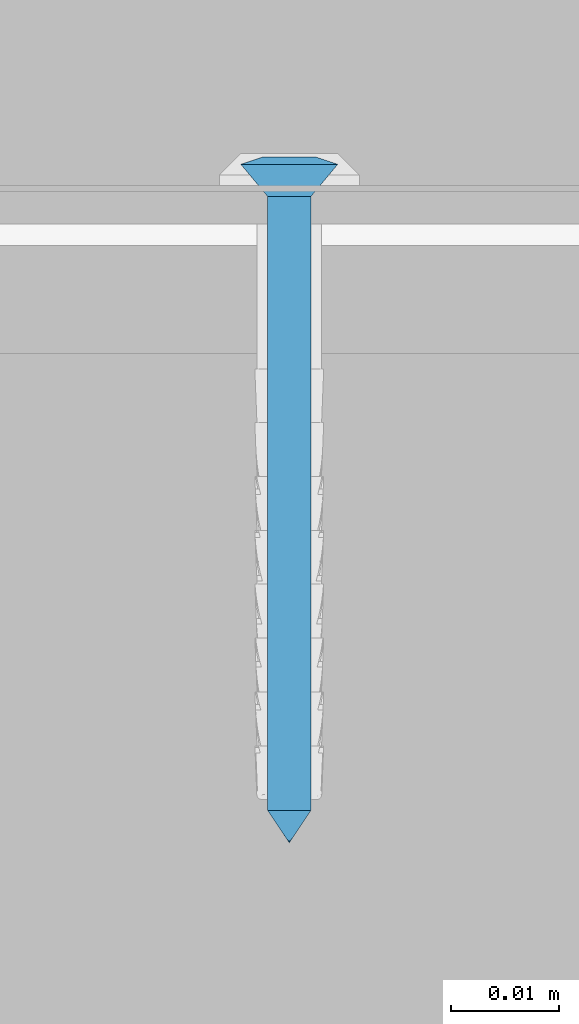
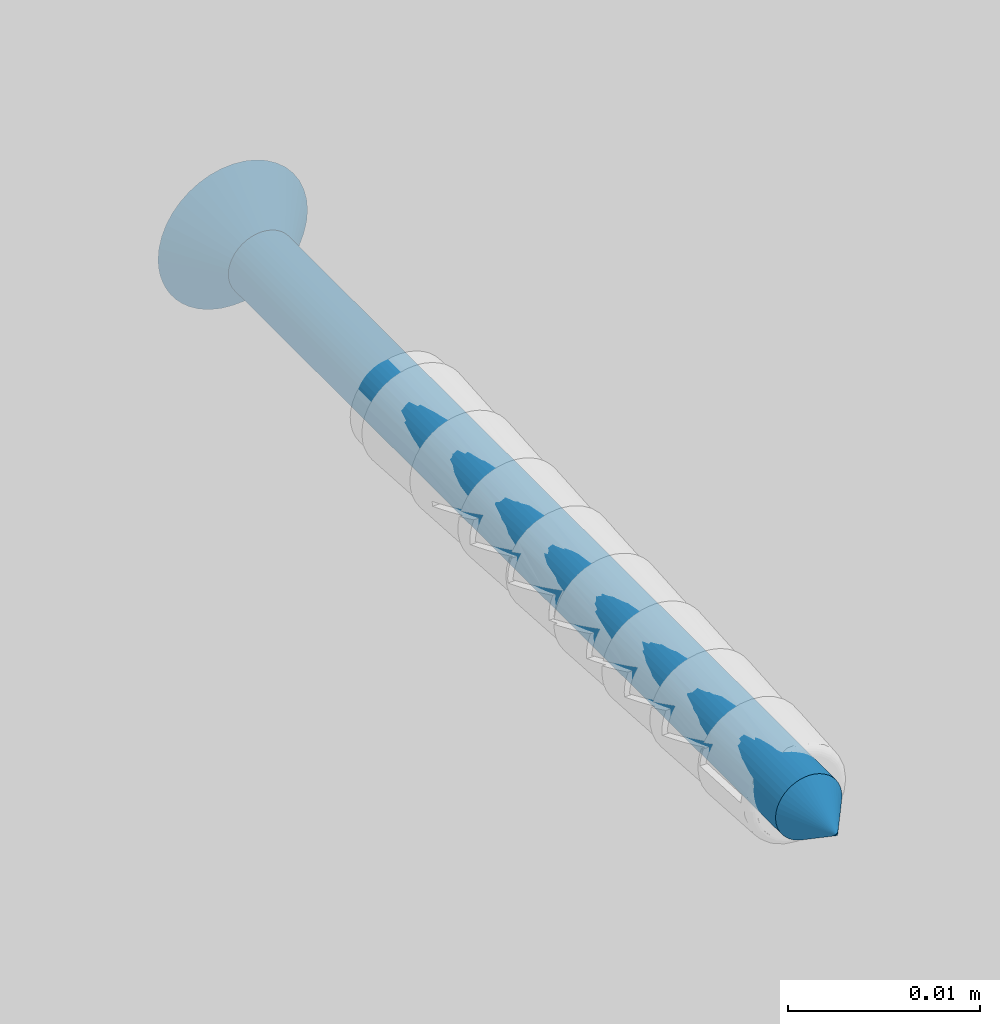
# One storey, part 18 of 92: 1 wall.
"""IFC2X3 building model written with IfcOpenShell, lengths in millimetres."""

import ifcopenshell
import ifcopenshell.guid

model = None  # the IFC model being written
_history = None  # IfcOwnerHistory: only IFC2X3 demands one
_inside = {}  # id of a spatial element -> (the spatial element, [elements in it])
_under = {}  # id of a project, library or spatial element -> (it, [spatial elements below it])
_declared = {}  # id of a project -> (the project, [libraries it declares])
_typed = {}  # id of a type object -> (the type object, [elements of that type])
_made_of = {}  # id of a material, layer set ... -> (it, [elements and type objects made of it])


def new_model(schema):
    """Start an empty IFC model of exactly this schema.

    Asked for "IFC4X3", IfcOpenShell would pick the latest addendum, in which some entities
    have other attributes; the version numbers below select the first issue.
    IFC2X3 requires an IfcOwnerHistory on every rooted entity: one is made here for all.
    """
    global model, _history
    if schema == "IFC4X3":
        model = ifcopenshell.file(schema_version=(4, 3, 0, 0))
    else:
        model = ifcopenshell.file(schema=schema)
    _inside.clear()
    _under.clear()
    _declared.clear()
    _typed.clear()
    _made_of.clear()
    _history = None
    if model.schema == "IFC2X3":
        org = make("IfcOrganization", Name="unknown")
        user = make(
            "IfcPersonAndOrganization",
            ThePerson=make("IfcPerson", FamilyName="unknown"),
            TheOrganization=org,
        )
        app = make(
            "IfcApplication",
            ApplicationDeveloper=org,
            Version="unknown",
            ApplicationFullName="unknown",
            ApplicationIdentifier="unknown",
        )
        _history = make(
            "IfcOwnerHistory",
            OwningUser=user,
            OwningApplication=app,
            ChangeAction="ADDED",
            CreationDate=0,
        )
    return model


def make(cls, **values):
    """One entity of the class cls with the attributes given. An attribute that is None is left unset."""
    return model.create_entity(
        cls, **{name: value for name, value in values.items() if value is not None}
    )


def rooted(cls, **values):
    """An entity with a GlobalId (a new one), such as an element, a storey or a relation."""
    return make(cls, GlobalId=ifcopenshell.guid.new(), OwnerHistory=_history, **values)


def si_unit(unit_type, name, prefix=None):
    """IfcSIUnit, for example si_unit("LENGTHUNIT", "METRE", prefix="MILLI")."""
    return make("IfcSIUnit", UnitType=unit_type, Prefix=prefix, Name=name)


def assignment(units):
    """IfcUnitAssignment: the units of a project."""
    return None if units is None else make("IfcUnitAssignment", Units=units)


def point(xyz):
    """IfcCartesianPoint."""
    return None if xyz is None else make("IfcCartesianPoint", Coordinates=xyz)


def direction(xyz):
    """IfcDirection."""
    return None if xyz is None else make("IfcDirection", DirectionRatios=xyz)


def frame(location, z_axis=None, x_axis=None):
    """IfcAxis2Placement3D, a coordinate frame: its origin and axes. An axis left out is left unset."""
    return make(
        "IfcAxis2Placement3D",
        Location=point(location),
        Axis=direction(z_axis),
        RefDirection=direction(x_axis),
    )


def origin_with_axes():
    """The frame at (0, 0, 0) with the z axis (0, 0, 1) and the x axis (1, 0, 0) written out."""
    return frame((0.0, 0.0, 0.0), z_axis=(0.0, 0.0, 1.0), x_axis=(1.0, 0.0, 0.0))


def place(relative_to, where):
    """IfcLocalPlacement: puts the frame where relative to a parent placement (None: the world)."""
    return make(
        "IfcLocalPlacement", PlacementRelTo=relative_to, RelativePlacement=where
    )


def context(
    kind, dimensions, precision=None, world=None, true_north=None, identifier=None
):
    """IfcGeometricRepresentationContext, for example the 3D "Model" context."""
    return make(
        "IfcGeometricRepresentationContext",
        ContextIdentifier=identifier,
        ContextType=kind,
        CoordinateSpaceDimension=dimensions,
        Precision=precision,
        WorldCoordinateSystem=world,
        TrueNorth=true_north,
    )


def subcontext(parent, identifier, kind, view, scale=None):
    """IfcGeometricRepresentationSubContext, for example "Body" below "Model"."""
    return make(
        "IfcGeometricRepresentationSubContext",
        ContextIdentifier=identifier,
        ContextType=kind,
        ParentContext=parent,
        TargetScale=scale,
        TargetView=view,
    )


def project(units=None, contexts=None):
    """IfcProject with its units and contexts."""
    return rooted(
        "IfcProject",
        Name="project",
        RepresentationContexts=contexts,
        UnitsInContext=assignment(units),
    )


def spatial(cls, under=None, at=None, **own):
    """A site, building, storey or space (cls), placed at a placement, below another one or the project."""
    s = rooted(cls, ObjectPlacement=at, **own)
    if under is not None:
        _under.setdefault(under.id(), (under, []))[1].append(s)
    return s


def faces_of(points, faces, orient=None, outer=None):
    """IfcFace entities. A face is a list of loops; a loop is a list of indices into points, from 0.

    orient and outer hold one flag for each loop. By default every Orientation is true, the
    first loop of a face is its IfcFaceOuterBound and the others are IfcFaceBound.
    """
    made = []
    for i, loops in enumerate(faces):
        bounds = []
        for j, loop in enumerate(loops):
            is_outer = j == 0 if outer is None else outer[i][j]
            bounds.append(
                make(
                    "IfcFaceOuterBound" if is_outer else "IfcFaceBound",
                    Bound=make("IfcPolyLoop", Polygon=[points[k] for k in loop]),
                    Orientation=True if orient is None else orient[i][j],
                )
            )
        made.append(make("IfcFace", Bounds=bounds))
    return made


def faceted_brep(points, faces, orient=None, outer=None, voids=None):
    """IfcFacetedBrep: a solid bounded by flat faces; with voids (closed shells), ...WithVoids."""
    shared = [point(p) for p in points]
    hull = make("IfcClosedShell", CfsFaces=faces_of(shared, faces, orient, outer))
    if voids is None:
        return make("IfcFacetedBrep", Outer=hull)
    return make(
        "IfcFacetedBrepWithVoids",
        Outer=hull,
        Voids=[
            make(cls, CfsFaces=faces_of(shared, fs, o, b)) for cls, fs, o, b in voids
        ],
    )


def shape(context_of_items, identifier, shape_type, items):
    """IfcShapeRepresentation: the items that make up one representation, for example the "Body"."""
    return make(
        "IfcShapeRepresentation",
        ContextOfItems=context_of_items,
        RepresentationIdentifier=identifier,
        RepresentationType=shape_type,
        Items=items,
    )


def material(Name=None, Category=None):
    """IfcMaterial."""
    return make("IfcMaterial", Name=Name, Category=Category)


def made_of(thing, what):
    """Note that an element or type object is made of a material, layer set ...; save() writes the relation."""
    if what is not None:
        _made_of.setdefault(what.id(), (what, []))[1].append(thing)
    return thing


def type_object(cls, material=None, **own):
    """A type object (cls), such as IfcWallType, which elements share."""
    return made_of(rooted(cls, **own), material)


def element(
    cls,
    number,
    at=None,
    inside=None,
    cuts=None,
    type_object=None,
    material=None,
    context=None,
    identifier="Body",
    shape_type=None,
    held_by="IfcProductDefinitionShape",
    body=None,
    shapes=None,
    **own,
):
    """One element of the class cls, such as IfcWall. Its Tag is "e" and its number.

    at: its placement. inside: the storey or other place that contains it. cuts: it is an
    opening in that element (IfcRelVoidsElement). A single representation is given by context,
    identifier, shape_type and body (its items); several are given by shapes. held_by: the class
    of the entity that holds the representations. save() writes the other relations.
    """
    e = rooted(cls, Tag="e%d" % number, ObjectPlacement=at, **own)
    if body is not None:
        shapes = [shape(context, identifier, shape_type, body)]
    if shapes is not None:
        e.Representation = make(held_by, Representations=shapes)
    if inside is not None:
        _inside.setdefault(inside.id(), (inside, []))[1].append(e)
    if cuts is not None:
        rooted(
            "IfcRelVoidsElement", RelatingBuildingElement=cuts, RelatedOpeningElement=e
        )
    if type_object is not None:
        _typed.setdefault(type_object.id(), (type_object, []))[1].append(e)
    return made_of(e, material)


def aggregate(whole, parts):
    """IfcRelAggregates: a whole, such as a stair, and the parts it consists of."""
    return rooted("IfcRelAggregates", RelatingObject=whole, RelatedObjects=parts)


def save(model, path):
    """Write the relations noted so far, then the file.

    IfcRelAggregates (storeys below a building ...), IfcRelContainedInSpatialStructure (elements
    in a storey), IfcRelDefinesByType, IfcRelAssociatesMaterial and IfcRelDeclares: one each for
    every whole, place, type object, material and project.
    """
    for whole, parts in _under.values():
        aggregate(whole, parts)
    for where, things in _inside.values():
        rooted(
            "IfcRelContainedInSpatialStructure",
            RelatedElements=things,
            RelatingStructure=where,
        )
    for kind, things in _typed.values():
        rooted("IfcRelDefinesByType", RelatedObjects=things, RelatingType=kind)
    for what, things in _made_of.values():
        rooted("IfcRelAssociatesMaterial", RelatedObjects=things, RelatingMaterial=what)
    for by, libraries in _declared.values():
        rooted("IfcRelDeclares", RelatingContext=by, RelatedDefinitions=libraries)
    model.write(path)


model = new_model("IFC2X3")

# Units and contexts
model_context = context("Model", 3, world=origin_with_axes())
body_context = subcontext(model_context, "Body", "Model", "MODEL_VIEW")
ifc_project = project(units=[si_unit("LENGTHUNIT", "METRE", prefix="MILLI"), si_unit("AREAUNIT", "SQUARE_METRE"), si_unit("VOLUMEUNIT", "CUBIC_METRE")], contexts=[model_context])

# Site, building, storey
site_placement = place(None, origin_with_axes())
site = spatial("IfcSite", under=ifc_project, at=site_placement, Name="Default Site", CompositionType="ELEMENT")
building_placement = place(site_placement, origin_with_axes())
building = spatial("IfcBuilding", under=site, at=building_placement, Name="Default Building", CompositionType="ELEMENT")
storey_placement = place(building_placement, origin_with_axes())
storey = spatial("IfcBuildingStorey", under=building, at=storey_placement, Name="Default Building Storey", CompositionType="ELEMENT", Elevation=0.0)

# Wall
ifc_material = material(Name="Default")
wall_type = type_object("IfcWallType", Name="Kołek rozporowy min. fi 6", PredefinedType="NOTDEFINED")
wall_placement = place(storey_placement, frame((3527.8498144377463, 118.01549176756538, 2996.231090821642), z_axis=(-1.89380159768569e-13, 1.0, 3.3306690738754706e-16), x_axis=(1.9030997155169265e-13, -3.3306690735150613e-16, 1.0)))
element("IfcWall", 1, at=wall_placement, inside=storey, type_object=wall_type, material=ifc_material, Name="Kołek rozporowy min. fi 6", context=body_context, shape_type="Brep", body=[
    faceted_brep([(-1438.2587671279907, -3452.579259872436, -0.46425670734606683), (-1435.7895851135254, -3452.970266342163, -3.464256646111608), (-1435.8141422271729, -3453.2833099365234, -3.464256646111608), (-1438.3141994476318, -3453.2833099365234, -0.46425670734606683), (-1438.093900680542, -3451.892614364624, -0.46425670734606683), (-1435.7162714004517, -3452.6650905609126, -3.464256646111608), (-1437.8236532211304, -3451.240301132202, -0.46425670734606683), (-1435.5961084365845, -3452.3751735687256, -3.464256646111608), (-1437.4547004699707, -3450.6382942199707, -0.46425670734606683), (-1435.4321956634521, -3452.107667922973, -3.464256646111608), (-1436.9961023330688, -3450.101137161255, -0.46425670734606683), (-1435.22834777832, -3451.8690109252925, -3.464256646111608), (-1436.4591836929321, -3449.642658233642, -0.46425670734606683), (-1434.9896907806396, -3451.665163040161, -3.464256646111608), (-1435.8570575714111, -3449.2735862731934, -0.46425670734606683), (-1434.7221851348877, -3451.501131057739, -3.464256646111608), (-1435.2047443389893, -3449.0034580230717, -0.46425670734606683), (-1434.4321489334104, -3451.381206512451, -3.464256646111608), (-1434.5180988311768, -3448.838710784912, -0.46425670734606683), (-1434.1269731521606, -3451.307773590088, -3.464256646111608), (-1433.8141679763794, -3448.7831592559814, -0.46425670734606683), (-1433.8141679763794, -3451.28321647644, -3.464256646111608), (-1433.110237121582, -3448.838710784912, -0.46425670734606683), (-1433.5012435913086, -3451.307773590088, -3.464256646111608), (-1432.4235916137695, -3449.0034580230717, -0.46425670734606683), (-1433.1960678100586, -3451.381206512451, -3.464256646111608), (-1431.771159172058, -3449.2735862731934, -0.46425670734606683), (-1432.9061508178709, -3451.501131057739, -3.464256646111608), (-1431.1691522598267, -3449.642658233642, -0.46425670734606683), (-1432.6385259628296, -3451.665163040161, -3.464256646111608), (-1430.6321144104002, -3450.101137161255, -0.46425670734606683), (-1432.3999881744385, -3451.8690109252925, -3.464256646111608), (-1430.1735162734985, -3450.6382942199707, -0.46425670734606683), (-1432.1961402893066, -3452.107667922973, -3.464256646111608), (-1429.8045635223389, -3451.240301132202, -0.46425670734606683), (-1432.0321083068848, -3452.3751735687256, -3.464256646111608), (-1429.5344352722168, -3451.892614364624, -0.46425670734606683), (-1431.9120645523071, -3452.6650905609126, -3.464256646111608), (-1431.814193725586, -3453.2833099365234, -3.464256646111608), (-1429.314136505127, -3453.2833099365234, -0.46425670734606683), (-1429.369568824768, -3453.9871215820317, -0.46425670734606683), (-1431.8387508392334, -3453.5961151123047, -3.464256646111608), (-1431.8387508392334, -3452.970266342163, -3.464256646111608), (-1429.369568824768, -3452.579259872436, -0.46425670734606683), (-1429.5344352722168, -3454.6737670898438, -0.46425670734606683), (-1431.9120645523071, -3453.9012908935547, -3.464256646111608), (-1429.8045635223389, -3455.3260803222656, -0.46425670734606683), (-1432.0321083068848, -3454.191207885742, -3.464256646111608), (-1430.1735162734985, -3455.9283256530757, -0.46425670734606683), (-1432.1961402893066, -3454.458713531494, -3.464256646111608), (-1430.6321144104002, -3456.465244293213, -0.46425670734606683), (-1432.3999881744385, -3454.6973705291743, -3.464256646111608), (-1431.1691522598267, -3456.923723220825, -0.46425670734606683), (-1432.6385259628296, -3454.9012184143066, -3.464256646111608), (-1431.771159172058, -3457.2927951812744, -0.46425670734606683), (-1432.9061508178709, -3455.065250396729, -3.464256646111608), (-1432.4235916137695, -3457.562923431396, -0.46425670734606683), (-1433.1960678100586, -3455.1854133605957, -3.464256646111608), (-1433.110237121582, -3457.7279090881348, -0.46425670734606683), (-1433.5012435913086, -3455.25860786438, -3.464256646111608), (-1433.8141679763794, -3457.7832221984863, -0.46425670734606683), (-1433.8141679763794, -3455.283164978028, -3.464256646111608), (-1434.1269731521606, -3455.25860786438, -3.464256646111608), (-1434.3430995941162, -3457.7519893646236, -0.46425670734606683), (-1434.4321489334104, -3455.1854133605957, -3.464256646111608), (-1434.8646402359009, -3457.6590061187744, -0.46425670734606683), (-1435.3716373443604, -3457.504987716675, -0.46425670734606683), (-1434.7221851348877, -3455.065250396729, -3.464256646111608), (-1435.8570575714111, -3457.2927951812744, -0.46425670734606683), (-1436.3142251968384, -3457.024812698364, -0.46425670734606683), (-1435.22834777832, -3454.6973705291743, -3.464256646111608), (-1434.9896907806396, -3454.9012184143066, -3.464256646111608), (-1436.7367029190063, -3456.705093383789, -0.46425670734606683), (-1437.118649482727, -3456.337928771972, -0.46425670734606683), (-1435.4321956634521, -3454.458713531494, -3.464256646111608), (-1437.4547004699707, -3455.9283256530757, -0.46425670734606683), (-1437.8236532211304, -3455.3260803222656, -0.46425670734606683), (-1435.5961084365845, -3454.191207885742, -3.464256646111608), (-1438.093900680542, -3454.6737670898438, -0.46425670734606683), (-1435.7162714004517, -3453.9012908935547, -3.464256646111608), (-1438.2587671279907, -3453.9871215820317, -0.46425670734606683), (-1435.7895851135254, -3453.5961151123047, -3.464256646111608), (-1433.8141679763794, -3455.7831287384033, 0.20073754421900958), (-1434.2052936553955, -3455.752372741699, 0.20073754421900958), (-1434.5866441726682, -3455.6608200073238, 0.20073754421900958), (-1434.9491596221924, -3455.510854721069, 0.20073754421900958), (-1435.2836608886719, -3455.305814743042, 0.20073754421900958), (-1435.581922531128, -3455.0509452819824, 0.20073754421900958), (-1435.836672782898, -3454.7526836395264, 0.20073754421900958), (-1436.0417127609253, -3454.418182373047, 0.20073754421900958), (-1436.1917972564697, -3454.0557861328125, 0.20073754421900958), (-1436.2833499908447, -3453.6743164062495, 0.20073754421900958), (-1436.3141059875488, -3453.2833099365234, 0.20073754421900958), (-1436.2833499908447, -3452.8920650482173, 0.20073754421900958), (-1436.1917972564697, -3452.5105953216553, 0.20073754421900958), (-1436.0417127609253, -3452.148199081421, 0.20073754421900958), (-1435.836672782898, -3451.8136978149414, 0.20073754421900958), (-1435.581922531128, -3451.5154361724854, 0.20073754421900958), (-1435.2836608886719, -3451.260566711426, 0.20073754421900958), (-1434.9491596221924, -3451.0557651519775, 0.20073754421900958), (-1434.5866441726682, -3450.905561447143, 0.20073754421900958), (-1433.8141679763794, -3450.7832527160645, 0.20073754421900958), (-1433.4230422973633, -3450.8140087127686, 0.20073754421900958), (-1434.2052936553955, -3450.8140087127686, 0.20073754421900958), (-1433.0415725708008, -3450.905561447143, 0.20073754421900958), (-1432.6791763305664, -3451.0557651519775, 0.20073754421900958), (-1432.344675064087, -3451.260566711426, 0.20073754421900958), (-1432.0464134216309, -3451.5154361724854, 0.20073754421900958), (-1431.7916631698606, -3451.8136978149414, 0.20073754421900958), (-1431.5866231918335, -3452.148199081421, 0.20073754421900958), (-1431.436538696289, -3452.5105953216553, 0.20073754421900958), (-1431.344985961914, -3452.8920650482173, 0.20073754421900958), (-1431.3141107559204, -3453.2833099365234, 0.20073754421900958), (-1431.344985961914, -3453.6743164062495, 0.20073754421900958), (-1431.436538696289, -3454.0557861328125, 0.20073754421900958), (-1431.5866231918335, -3454.418182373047, 0.20073754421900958), (-1431.7916631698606, -3454.7526836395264, 0.20073754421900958), (-1432.0464134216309, -3455.0509452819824, 0.20073754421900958), (-1432.344675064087, -3455.305814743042, 0.20073754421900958), (-1432.6791763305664, -3455.510854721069, 0.20073754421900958), (-1433.0415725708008, -3455.6608200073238, 0.20073754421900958), (-1433.4230422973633, -3455.752372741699, 0.20073754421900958), (-1435.8141422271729, -3453.2833099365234, -60.464255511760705), (-1435.7895851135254, -3452.970266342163, -60.464255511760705), (-1433.8141679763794, -3453.2833099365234, -63.46425414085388), (-1435.7162714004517, -3452.6650905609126, -60.464255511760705), (-1435.5961084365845, -3452.3751735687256, -60.464255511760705), (-1435.4321956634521, -3452.107667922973, -60.464255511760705), (-1435.22834777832, -3451.8690109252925, -60.464255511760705), (-1434.9896907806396, -3451.665163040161, -60.464255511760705), (-1434.7221851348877, -3451.501131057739, -60.464255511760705), (-1434.4321489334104, -3451.381206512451, -60.464255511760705), (-1434.1269731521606, -3451.307773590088, -60.464255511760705), (-1433.8141679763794, -3451.28321647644, -60.464255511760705), (-1433.5012435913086, -3451.307773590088, -60.464255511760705), (-1433.1960678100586, -3451.381206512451, -60.464255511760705), (-1432.9061508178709, -3451.501131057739, -60.464255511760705), (-1432.6385259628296, -3451.665163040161, -60.464255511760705), (-1432.3999881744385, -3451.8690109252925, -60.464255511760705), (-1432.1961402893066, -3452.107667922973, -60.464255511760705), (-1432.0321083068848, -3452.3751735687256, -60.464255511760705), (-1431.9120645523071, -3452.6650905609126, -60.464255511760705), (-1431.8387508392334, -3452.970266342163, -60.464255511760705), (-1431.814193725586, -3453.2833099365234, -60.464255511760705), (-1431.8387508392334, -3453.5961151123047, -60.464255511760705), (-1431.9120645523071, -3453.9012908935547, -60.464255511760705), (-1432.0321083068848, -3454.191207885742, -60.464255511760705), (-1432.1961402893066, -3454.458713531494, -60.464255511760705), (-1432.3999881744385, -3454.6973705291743, -60.464255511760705), (-1432.6385259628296, -3454.9012184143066, -60.464255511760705), (-1432.9061508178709, -3455.065250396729, -60.464255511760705), (-1433.1960678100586, -3455.1854133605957, -60.464255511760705), (-1433.5012435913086, -3455.25860786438, -60.464255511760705), (-1433.8141679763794, -3455.283164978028, -60.464255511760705), (-1434.1269731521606, -3455.25860786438, -60.464255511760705), (-1434.4321489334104, -3455.1854133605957, -60.464255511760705), (-1434.7221851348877, -3455.065250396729, -60.464255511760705), (-1434.9896907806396, -3454.9012184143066, -60.464255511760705), (-1435.22834777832, -3454.6973705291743, -60.464255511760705), (-1435.4321956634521, -3454.458713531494, -60.464255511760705), (-1435.5961084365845, -3454.191207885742, -60.464255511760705), (-1435.7162714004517, -3453.9012908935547, -60.464255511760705), (-1435.7895851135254, -3453.5961151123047, -60.464255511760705), (-1436.1917972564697, -3454.0557861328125, 0.049999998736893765), (-1436.0417127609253, -3454.418182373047, 0.049999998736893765), (-1435.836672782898, -3454.7526836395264, 0.049999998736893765), (-1435.581922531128, -3455.0509452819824, 0.049999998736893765), (-1435.2836608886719, -3455.305814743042, 0.049999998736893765), (-1434.9491596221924, -3455.510854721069, 0.049999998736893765), (-1434.5866441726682, -3455.6608200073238, 0.049999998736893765), (-1434.2052936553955, -3455.752372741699, 0.049999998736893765), (-1433.8141679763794, -3455.7831287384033, 0.049999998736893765), (-1433.4230422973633, -3455.752372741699, 0.049999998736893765), (-1433.0415725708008, -3455.6608200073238, 0.049999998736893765), (-1432.6791763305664, -3455.510854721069, 0.049999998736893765), (-1432.344675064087, -3455.305814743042, 0.049999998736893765), (-1432.0464134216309, -3455.0509452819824, 0.049999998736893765), (-1431.7916631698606, -3454.7526836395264, 0.049999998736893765), (-1431.5866231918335, -3454.418182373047, 0.049999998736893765), (-1431.436538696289, -3454.0557861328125, 0.049999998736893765), (-1431.344985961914, -3453.6743164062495, 0.049999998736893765), (-1431.3141107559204, -3453.2833099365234, 0.049999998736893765), (-1431.344985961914, -3452.8920650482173, 0.049999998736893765), (-1431.436538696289, -3452.5105953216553, 0.049999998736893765), (-1431.5866231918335, -3452.148199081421, 0.049999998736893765), (-1431.7916631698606, -3451.8136978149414, 0.049999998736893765), (-1432.0464134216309, -3451.5154361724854, 0.049999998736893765), (-1432.344675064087, -3451.260566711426, 0.049999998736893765), (-1432.6791763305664, -3451.0557651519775, 0.049999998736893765), (-1433.0415725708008, -3450.905561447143, 0.049999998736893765), (-1433.4230422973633, -3450.8140087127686, 0.049999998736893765), (-1433.8141679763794, -3450.7832527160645, 0.049999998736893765), (-1434.2052936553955, -3450.8140087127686, 0.049999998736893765), (-1434.5866441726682, -3450.905561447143, 0.049999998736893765), (-1434.9491596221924, -3451.0557651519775, 0.049999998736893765), (-1435.2836608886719, -3451.260566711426, 0.049999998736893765), (-1435.581922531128, -3451.5154361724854, 0.049999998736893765), (-1435.836672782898, -3451.8136978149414, 0.049999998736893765), (-1436.0417127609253, -3452.148199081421, 0.049999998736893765), (-1436.1917972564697, -3452.5105953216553, 0.049999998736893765), (-1436.2833499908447, -3452.8920650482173, 0.049999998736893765), (-1436.3141059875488, -3453.2833099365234, 0.049999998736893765), (-1436.2833499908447, -3453.6743164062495, 0.049999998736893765), (-1434.3141317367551, -3453.7832736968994, 0.049999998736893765), (-1435.8141422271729, -3453.7832736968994, 0.049999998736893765), (-1435.8141422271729, -3452.7831077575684, 0.049999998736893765), (-1434.3141317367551, -3452.7831077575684, 0.049999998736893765), (-1434.3141317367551, -3451.28321647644, 0.049999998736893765), (-1433.3142042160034, -3451.28321647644, 0.049999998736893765), (-1433.3142042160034, -3452.7831077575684, 0.049999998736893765), (-1431.814193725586, -3452.7831077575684, 0.049999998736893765), (-1431.814193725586, -3453.7832736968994, 0.049999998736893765), (-1433.3142042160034, -3453.7832736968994, 0.049999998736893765), (-1433.3142042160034, -3455.283164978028, 0.049999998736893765), (-1434.3141317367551, -3455.283164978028, 0.049999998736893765), (-1435.8141422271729, -3452.7831077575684, -1.799262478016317), (-1435.8141422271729, -3453.7832736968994, -1.799262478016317), (-1434.3141317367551, -3453.7832736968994, -1.799262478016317), (-1434.3141317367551, -3455.283164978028, -1.799262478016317), (-1433.3142042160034, -3455.283164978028, -1.799262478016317), (-1433.3142042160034, -3453.7832736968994, -1.799262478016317), (-1431.814193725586, -3453.7832736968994, -1.799262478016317), (-1431.814193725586, -3452.7831077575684, -1.799262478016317), (-1433.3142042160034, -3452.7831077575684, -1.799262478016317), (-1433.3142042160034, -3451.28321647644, -1.799262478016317), (-1434.3141317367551, -3451.28321647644, -1.799262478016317), (-1434.3141317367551, -3452.7831077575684, -1.799262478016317)], [[[0, 1, 2, 3]], [[1, 0, 4, 5]], [[5, 4, 6, 7]], [[8, 9, 7, 6]], [[9, 8, 10, 11]], [[12, 13, 11, 10]], [[13, 12, 14, 15]], [[15, 14, 16, 17]], [[18, 19, 17, 16]], [[19, 18, 20, 21]], [[22, 23, 21, 20]], [[23, 22, 24, 25]], [[25, 24, 26, 27]], [[28, 29, 27, 26]], [[29, 28, 30, 31]], [[32, 33, 31, 30]], [[33, 32, 34, 35]], [[35, 34, 36, 37]], [[38, 39, 40, 41]], [[42, 43, 39, 38]], [[43, 42, 37, 36]], [[41, 40, 44, 45]], [[45, 44, 46, 47]], [[48, 49, 47, 46]], [[49, 48, 50, 51]], [[52, 53, 51, 50]], [[53, 52, 54, 55]], [[55, 54, 56, 57]], [[58, 59, 57, 56]], [[59, 58, 60, 61]], [[62, 60, 63]], [[62, 61, 60]], [[63, 64, 62]], [[63, 65, 64]], [[64, 65, 66]], [[66, 67, 64]], [[66, 68, 67]], [[69, 70, 71]], [[69, 72, 70]], [[71, 68, 69]], [[71, 67, 68]], [[72, 73, 70]], [[74, 73, 75]], [[74, 70, 73]], [[74, 75, 76, 77]], [[77, 76, 78, 79]], [[80, 81, 79, 78]], [[81, 80, 3, 2]], [[63, 82, 83]], [[63, 60, 82]], [[83, 65, 63]], [[83, 84, 65]], [[84, 68, 66]], [[84, 85, 68]], [[66, 65, 84]], [[69, 85, 86]], [[69, 68, 85]], [[87, 73, 72]], [[72, 86, 87]], [[72, 69, 86]], [[75, 87, 88]], [[75, 73, 87]], [[75, 88, 89, 76]], [[76, 89, 90, 78]], [[91, 80, 78, 90]], [[80, 91, 92, 3]], [[93, 0, 3, 92]], [[0, 93, 94, 4]], [[4, 94, 95, 6]], [[96, 8, 6, 95]], [[8, 96, 97, 10]], [[98, 12, 10, 97]], [[12, 98, 99, 14]], [[14, 99, 100, 16]], [[20, 101, 102, 22]], [[18, 103, 101, 20]], [[103, 18, 16, 100]], [[22, 102, 104, 24]], [[24, 104, 105, 26]], [[106, 28, 26, 105]], [[28, 106, 107, 30]], [[108, 32, 30, 107]], [[32, 108, 109, 34]], [[34, 109, 110, 36]], [[111, 43, 36, 110]], [[43, 111, 112, 39]], [[113, 40, 39, 112]], [[40, 113, 114, 44]], [[44, 114, 115, 46]], [[116, 48, 46, 115]], [[48, 116, 117, 50]], [[118, 52, 50, 117]], [[52, 118, 119, 54]], [[54, 119, 120, 56]], [[121, 58, 56, 120]], [[58, 121, 82, 60]], [[122, 123, 124]], [[123, 125, 124]], [[125, 126, 124]], [[124, 126, 127]], [[127, 128, 124]], [[124, 128, 129]], [[129, 130, 124]], [[130, 131, 124]], [[124, 131, 132]], [[132, 133, 124]], [[124, 133, 134]], [[134, 135, 124]], [[135, 136, 124]], [[124, 136, 137]], [[137, 138, 124]], [[124, 138, 139]], [[139, 140, 124]], [[140, 141, 124]], [[124, 141, 142]], [[142, 143, 124]], [[124, 143, 144]], [[144, 145, 124]], [[145, 146, 124]], [[124, 146, 147]], [[147, 148, 124]], [[124, 148, 149]], [[149, 150, 124]], [[150, 151, 124]], [[124, 151, 152]], [[152, 153, 124]], [[124, 153, 154]], [[154, 155, 124]], [[155, 156, 124]], [[124, 156, 157]], [[157, 158, 124]], [[124, 158, 159]], [[159, 160, 124]], [[160, 161, 124]], [[124, 161, 162]], [[124, 162, 122]], [[1, 123, 122, 2]], [[123, 1, 5, 125]], [[125, 5, 7, 126]], [[9, 127, 126, 7]], [[127, 9, 11, 128]], [[13, 129, 128, 11]], [[129, 13, 15, 130]], [[130, 15, 17, 131]], [[19, 132, 131, 17]], [[132, 19, 21, 133]], [[23, 134, 133, 21]], [[134, 23, 25, 135]], [[135, 25, 27, 136]], [[29, 137, 136, 27]], [[137, 29, 31, 138]], [[33, 139, 138, 31]], [[139, 33, 35, 140]], [[140, 35, 37, 141]], [[143, 38, 41, 144]], [[142, 42, 38, 143]], [[42, 142, 141, 37]], [[144, 41, 45, 145]], [[145, 45, 47, 146]], [[49, 147, 146, 47]], [[147, 49, 51, 148]], [[53, 149, 148, 51]], [[149, 53, 55, 150]], [[150, 55, 57, 151]], [[59, 152, 151, 57]], [[152, 59, 61, 153]], [[62, 154, 153, 61]], [[154, 62, 64, 155]], [[155, 64, 67, 156]], [[71, 157, 156, 67]], [[157, 71, 70, 158]], [[74, 159, 158, 70]], [[159, 74, 77, 160]], [[160, 77, 79, 161]], [[81, 162, 161, 79]], [[162, 81, 2, 122]], [[163, 164, 165, 166, 167, 168, 169, 170, 171, 172, 173, 174, 175, 176, 177, 178, 179, 180, 181, 182, 183, 184, 185, 186, 187, 188, 189, 190, 191, 192, 193, 194, 195, 196, 197, 198, 199, 200, 201, 202], [203, 204, 205, 206, 207, 208, 209, 210, 211, 212, 213, 214]], [[113, 112, 181, 180]], [[180, 179, 114, 113]], [[179, 178, 115, 114]], [[116, 115, 178, 177]], [[177, 176, 117, 116]], [[118, 117, 176, 175]], [[175, 174, 119, 118]], [[174, 173, 120, 119]], [[121, 120, 173, 172]], [[172, 171, 82, 121]], [[83, 82, 171, 170]], [[170, 169, 84, 83]], [[169, 168, 85, 84]], [[86, 85, 168, 167]], [[167, 166, 87, 86]], [[88, 87, 166, 165]], [[165, 164, 89, 88]], [[164, 163, 90, 89]], [[201, 200, 93, 92]], [[202, 201, 92, 91]], [[91, 90, 163, 202]], [[200, 199, 94, 93]], [[199, 198, 95, 94]], [[96, 95, 198, 197]], [[197, 196, 97, 96]], [[98, 97, 196, 195]], [[195, 194, 99, 98]], [[194, 193, 100, 99]], [[103, 100, 193, 192]], [[192, 191, 101, 103]], [[102, 101, 191, 190]], [[190, 189, 104, 102]], [[189, 188, 105, 104]], [[106, 105, 188, 187]], [[187, 186, 107, 106]], [[108, 107, 186, 185]], [[185, 184, 109, 108]], [[184, 183, 110, 109]], [[111, 110, 183, 182]], [[182, 181, 112, 111]], [[215, 216, 217, 218, 219, 220, 221, 222, 223, 224, 225, 226]], [[224, 208, 207, 225]], [[225, 207, 206, 226]], [[226, 206, 205, 215]], [[215, 205, 204, 216]], [[216, 204, 203, 217]], [[217, 203, 214, 218]], [[218, 214, 213, 219]], [[219, 213, 212, 220]], [[220, 212, 211, 221]], [[221, 211, 210, 222]], [[222, 210, 209, 223]], [[223, 209, 208, 224]]]),
])

save(model, "model.ifc")
